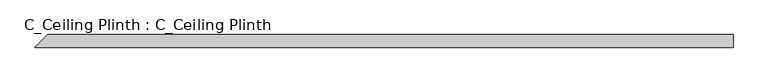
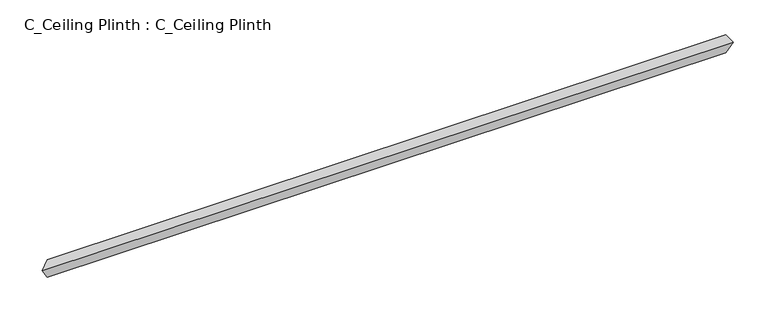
"""IFC4 building model written with IfcOpenShell, lengths in millimetres: proxy geometry, C_Ceiling Plinth : C_Ceiling Plinth."""

from ifc_helpers import new_model, si_unit, origin, place, context, project, spatial, faceted_brep, source, transform, mapped, element, save


def c_ceiling_plinth_c_ceiling_plinth_956910f2(model_context):
    return source(origin(), model_context, "Body", "Brep", [
        faceted_brep([(1377.9275955, 0.0, 0.0), (1377.9275955, 0.0, -38.1), (0.0, 0.0, -38.1), (0.0, 0.0, 0.0), (1377.9275955, -25.4, 0.0), (-25.4, -25.4, 0.0)], [[[0, 1, 2, 3]], [[4, 0, 3, 5]], [[1, 4, 5, 2]], [[1, 0, 4]], [[3, 2, 5]]]),
    ])


if __name__ == "__main__":
    model = new_model("IFC4")
    model_context = context("Model", 3, world=origin())
    ifc_project = project(units=[si_unit("LENGTHUNIT", "METRE", prefix="MILLI")], contexts=[model_context])
    site = spatial("IfcSite", under=ifc_project)
    building = spatial("IfcBuilding", under=site)
    placement = place(None, origin())
    c_ceiling_plinth_c_ceiling_plinth_shape = c_ceiling_plinth_c_ceiling_plinth_956910f2(model_context)
    element("IfcBuildingElementProxy", 1, Name="C_Ceiling Plinth : C_Ceiling Plinth", ObjectType="C_Ceiling Plinth : C_Ceiling Plinth", at=placement, inside=building, context=model_context, shape_type="MappedRepresentation", body=[
        mapped(c_ceiling_plinth_c_ceiling_plinth_shape, transform((0.0, 0.0, 0.0), x_axis=(1.0, 0.0, 0.0), y_axis=(0.0, 1.0, 0.0), z_axis=(0.0, 0.0, 1.0))),
    ])
    save(model, "model.ifc")
